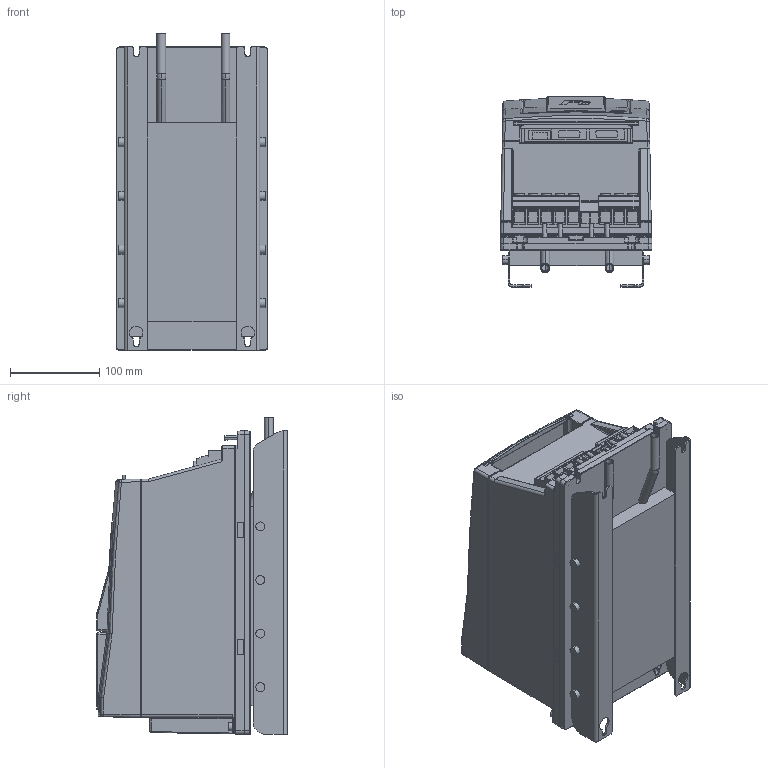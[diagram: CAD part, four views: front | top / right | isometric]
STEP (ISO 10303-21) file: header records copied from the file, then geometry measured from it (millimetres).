
FILE_DESCRIPTION (( 'STEP AP214' ), '1' );
FILE_NAME ('F6-3 TW0-P150.STEP', '2024-08-27T10:17:57', ( '' ), ( '' ), 'SwSTEP 2.0', 'SolidWorks 2022', '' );
FILE_SCHEMA (( 'AUTOMOTIVE_DESIGN' ));
Length unit declared in the file: millimetre
Products named in the file (9): Kundenmodell^10051076_000_Kundenmodell mit Geberbuchsen; Kundenmodell^10040482_000; 10040482_000_Kundenmodell; F6-3 TW0-P150; 10059764_000_Blindabdeckung (Kundenmodell); Kundenmodell^10059764_000; 10051076_000_Kundenmodell; 10068344_000_Leistungsteil TR0 (Kundenmodell); Kundenmodell^10068344_000
Assembly tree (8 placements, depth 4):
  F6-3 TW0-P150
    10068344_000_Leistungsteil TR0 (Kundenmodell)
      Kundenmodell^10068344_000
    10040482_000_Kundenmodell
      Kundenmodell^10040482_000
    10051076_000_Kundenmodell
      10059764_000_Blindabdeckung (Kundenmodell)
        Kundenmodell^10059764_000
      Kundenmodell^10051076_000_Kundenmodell mit Geberbuchsen
Bounding box: 170 x 212.9 x 355 mm (x, y, z)
Volume: 8073155.1 mm3; surface area: 635200.7 mm2
Topology: 11 solids, 12 shells, 1898 faces, 4782 edges, 2939 vertices
Faces by surface type: plane 795, cylinder 573, bspline 330, torus 79, cone 75, sphere 46
Entity records: 64083 total; most frequent: CARTESIAN_POINT 21210, ORIENTED_EDGE 9444, DIRECTION 8143, EDGE_CURVE 4722, VERTEX_POINT 2939, AXIS2_PLACEMENT_3D 2812, LINE 2519, VECTOR 2519
